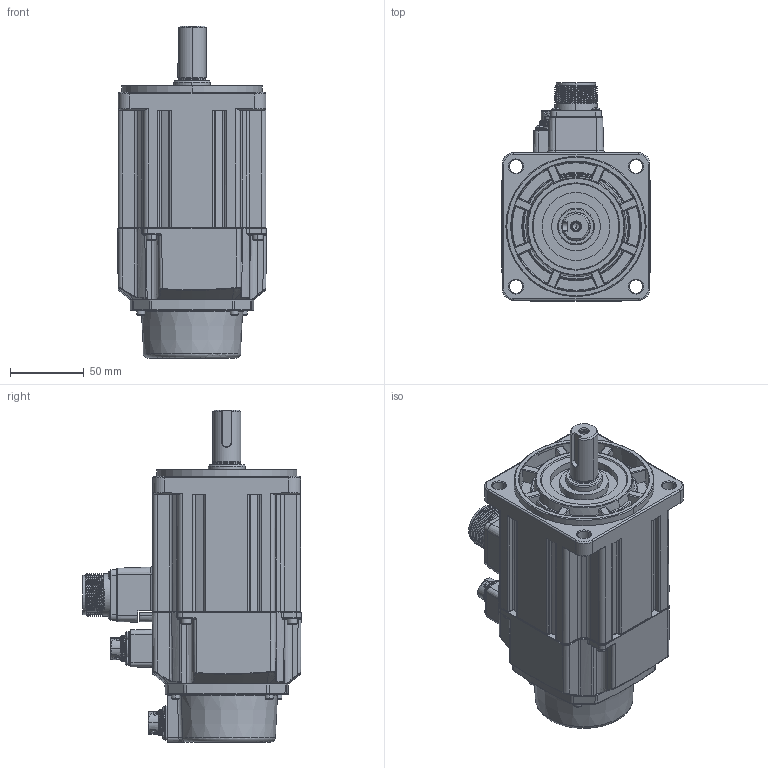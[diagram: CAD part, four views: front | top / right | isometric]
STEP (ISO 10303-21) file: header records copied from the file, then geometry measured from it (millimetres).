
FILE_DESCRIPTION((''),'2;1');
FILE_NAME('ECM-B3M-XX1010S91_ASM','2024-11-25T20:01:42',('JIADE.CHEN'),(''),'CREO PARAMETRIC BY PTC INC, 2020454','CREO PARAMETRIC BY PTC INC, 2020454','');
FILE_SCHEMA(('AUTOMOTIVE_DESIGN { 1 0 10303 214 1 1 1 1 }'));
Products named in the file (27): ECM-B3M-C21010SS1_202_SW0004__1; ECM-B3M-C21010SS1_202_SW0004__2; ECM-B3M-C21010SS1_202_SW0004__3; SHAFT_B3M_F1010_19; ECM-B3M-C21010SS1_202_SW0004_2_ASM; LQM37B48FFDB5MH_1_1; LQM37B48FFDB5MH_2_1; LQM37B48FFDB5MH_3_1; LQM37B48FFDB5MH_4_1; LQM37B48FFDB5MH_5_1; LQM37B48FFDB5MH_6_1; LQM37B48FFDB5MH_7_1; LQM37B48FFDB5MH_8_1; LQM37B48FFDB5MH_9_1; LQM37B48FFDB5MH_10_1; LQM37B48FFDB5MH_11_1; LQM37B48FFDB5MH_12_1; LQM37B48FFDB5MH_13_1; LQM37B48FFDB5MH_14_1; LQM37B48FFDB5MH_15_1; LQM37B48FFDB5MH_ASM_1_ASM; MS3102A18-10P_1_1; MS3102A18-10P_1_2; MS3102A18-10P_1_ASM; PRT0023_4; ASM0004_ASM_1_ASM; ECM-B3M-XX1010S91_ASM
Assembly tree (27 placements, depth 4):
  ECM-B3M-XX1010S91_ASM
    ASM0004_ASM_1_ASM
      ECM-B3M-C21010SS1_202_SW0004_2_ASM
        ECM-B3M-C21010SS1_202_SW0004__1
        ECM-B3M-C21010SS1_202_SW0004__2
        ECM-B3M-C21010SS1_202_SW0004__3
        SHAFT_B3M_F1010_19
      LQM37B48FFDB5MH_ASM_1_ASM
        LQM37B48FFDB5MH_1_1
        LQM37B48FFDB5MH_2_1
        LQM37B48FFDB5MH_3_1
        LQM37B48FFDB5MH_4_1
        LQM37B48FFDB5MH_5_1
        LQM37B48FFDB5MH_6_1
        LQM37B48FFDB5MH_7_1
        LQM37B48FFDB5MH_8_1
        LQM37B48FFDB5MH_9_1
        LQM37B48FFDB5MH_10_1
        LQM37B48FFDB5MH_11_1
        LQM37B48FFDB5MH_12_1
        LQM37B48FFDB5MH_13_1
        LQM37B48FFDB5MH_14_1
        LQM37B48FFDB5MH_15_1
      LQM37B48FFDB5MH_15_1
      MS3102A18-10P_1_ASM
        MS3102A18-10P_1_1
        MS3102A18-10P_1_2
      PRT0023_4
Bounding box: 100.79 x 147.79 x 224.9 mm (x, y, z)
Volume: 1434750.9 mm3; surface area: 170103.8 mm2
Topology: 21 solids, 41 shells, 5334 faces, 15169 edges, 10082 vertices
Faces by surface type: plane 3140, cylinder 1065, cone 530, torus 188, bspline 180, extrusion 150, sphere 81
Entity records: 183569 total; most frequent: CARTESIAN_POINT 48858, ORIENTED_EDGE 28250, DIRECTION 26465, EDGE_CURVE 14148, VERTEX_POINT 9461, VECTOR 9216, LINE 9141, AXIS2_PLACEMENT_3D 8586
